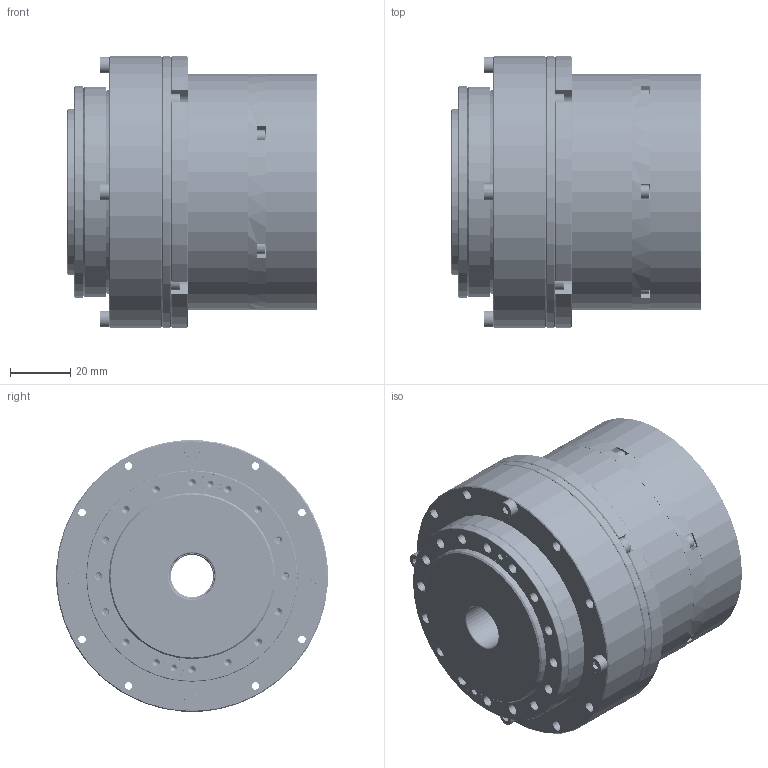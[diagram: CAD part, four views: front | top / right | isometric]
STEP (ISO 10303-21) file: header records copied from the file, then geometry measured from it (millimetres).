
FILE_DESCRIPTION (( 'STEP AP203' ), '1' );
FILE_NAME ('RH-20-100-E-N-D.STEP', '2026-01-08T09:31:13', ( '' ), ( '' ), 'SwSTEP 2.0', 'SolidWorks 2020', '' );
FILE_SCHEMA (( 'CONFIG_CONTROL_DESIGN' ));
Length unit declared in the file: millimetre
Products named in the file (11): WHS-20-XX-I_Default<偌樓馱>; 8MT.013.009（RH-20 端盖）; 8MT.034.003（RH-20 机座）; GB╱T 70.1-2008[内六角圆柱头螺钉M3×25]_M3×25; 8MT.013.044（RH-20 减速机密封盖-双编码器）_Default<按加工>; RH-20-100-E-N-D; GB╱T 70.1-2008[内六角圆柱头螺钉M2.5×10]_M2.5×10; 零件5^1MT.055.021（RH-20-100-E-N 一体化谐波减速模组-双编+ECAT）; GB╱T 70.3-2008[内六角沉头螺钉M3×10]_M3×10; 8MT.013.061（RH-20 驱动器盖-ECAT）; GB╱T 70.1-2008[内六角圆柱头螺钉M2.5×25]_M2.5×25
Assembly tree (21 placements, depth 2):
  RH-20-100-E-N-D
    8MT.034.003（RH-20 机座）
    8MT.013.009（RH-20 端盖）
    8MT.013.061（RH-20 驱动器盖-ECAT）
    8MT.013.044（RH-20 减速机密封盖-双编码器）_Default<按加工>
    WHS-20-XX-I_Default<偌樓馱>
    GB╱T 70.1-2008[内六角圆柱头螺钉M2.5×10]_M2.5×10  x6
    GB╱T 70.1-2008[内六角圆柱头螺钉M3×25]_M3×25  x4
    GB╱T 70.3-2008[内六角沉头螺钉M3×10]_M3×10  x2
    GB╱T 70.1-2008[内六角圆柱头螺钉M2.5×25]_M2.5×25  x3
    零件5^1MT.055.021（RH-20-100-E-N 一体化谐波减速模组-双编+ECAT）
Bounding box: 82.9 x 90 x 90 mm (x, y, z)
Volume: 373776.4 mm3; surface area: 190326.7 mm2
Topology: 44 solids, 44 shells, 1298 faces, 3064 edges, 1931 vertices
Faces by surface type: plane 514, cylinder 410, cone 232, bspline 84, torus 58
Full cylindrical faces by diameter (mm): 1.6 x3, 1.9 x1, 2.05 x12, 2.5 x52, 2.9 x9, 3 x18, 3.4 x10, 3.5 x76, 4.5 x9, 5 x3, 5.2 x4, 5.5 x12, 6 x8, 6.5 x4, 6.72 x2, 14 x1, 15 x1, 17 x2, 18 x2, 20 x1, 21 x1, 21.025 x1, 29.9 x1, 30 x1, 30.5 x1, 34.5 x1, 35 x1, 35.56 x1, 36.3 x1, 37 x1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
Entity records: 78875 total; most frequent: CARTESIAN_POINT 53346, DIRECTION 5086, ORIENTED_EDGE 4244, AXIS2_PLACEMENT_3D 2137, EDGE_CURVE 2122, EDGE_LOOP 1924, VERTEX_POINT 1582, FACE_OUTER_BOUND 1421
